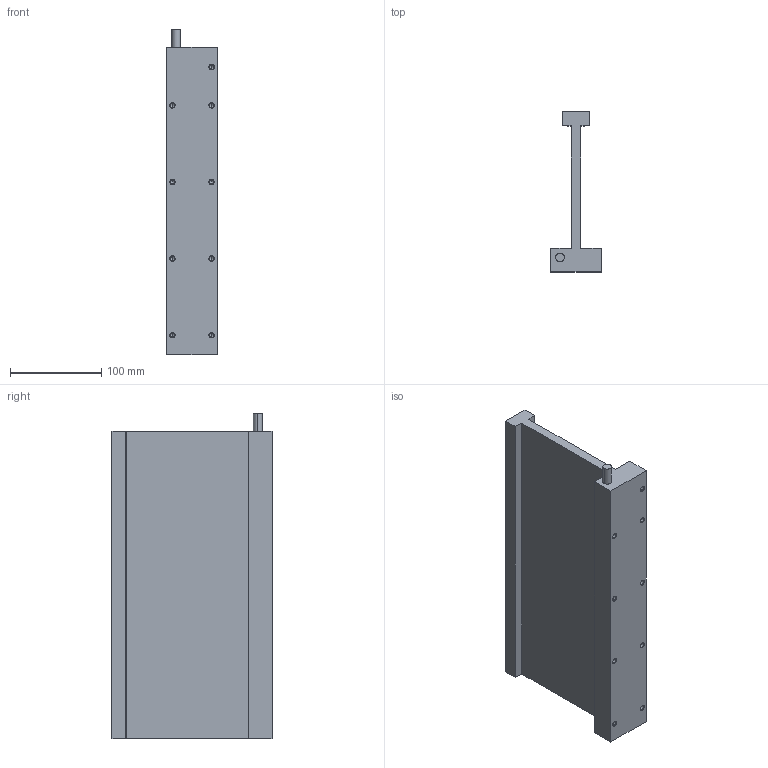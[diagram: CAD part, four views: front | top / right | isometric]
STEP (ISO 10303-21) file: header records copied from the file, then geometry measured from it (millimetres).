
FILE_DESCRIPTION (( 'STEP AP214' ), '1' );
FILE_NAME ('JKA6-1.STEP', '2025-09-05T12:52:51', ( '' ), ( '' ), 'SwSTEP 2.0', 'SolidWorks 2016', '' );
FILE_SCHEMA (( 'AUTOMOTIVE_DESIGN' ));
Length unit declared in the file: millimetre
Products named in the file (1): JKA6-1
Bounding box: 55.1 x 175.5 x 357 mm (x, y, z)
Volume: 1108490 mm3; surface area: 176645.9 mm2
Topology: 1 solids, 1 shells, 71 faces, 168 edges, 91 vertices
Faces by surface type: cone 36, cylinder 20, plane 15
Entity records: 2118 total; most frequent: DIRECTION 352, CARTESIAN_POINT 313, ORIENTED_EDGE 300, EDGE_CURVE 150, AXIS2_PLACEMENT_3D 130, LINE 92, VECTOR 92, VERTEX_POINT 91
